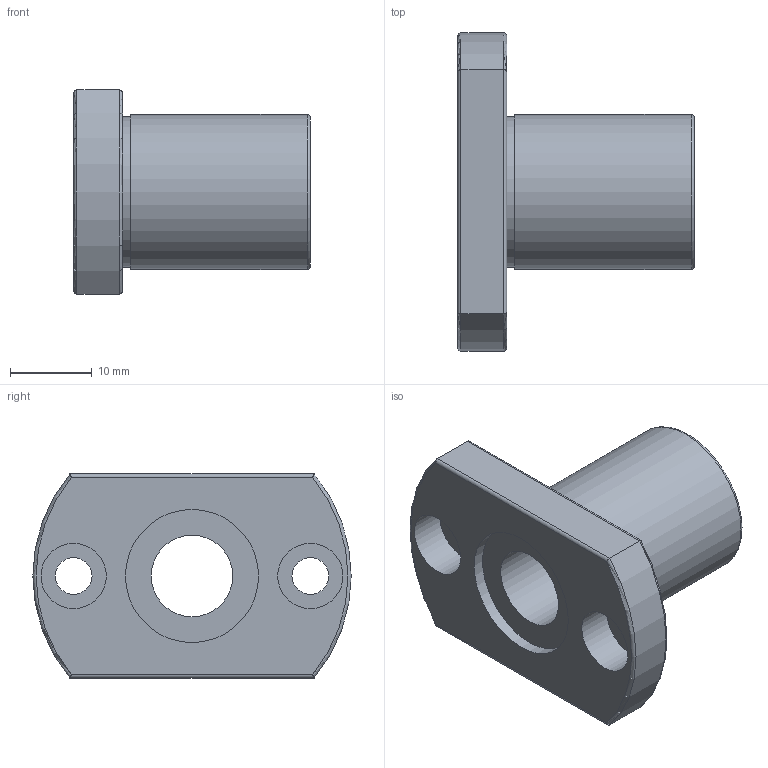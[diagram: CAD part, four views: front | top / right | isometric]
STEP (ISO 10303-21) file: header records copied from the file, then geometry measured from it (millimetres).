
FILE_DESCRIPTION( ( 'Unknown' ), '1' );
FILE_NAME( 'D:/累诀/己绕皋墨飘肺葱胶/11-04-06_档搁累己/01_府聪绢何教/LMH/LMH 10.stp', 'Unknown', ( 'Unknown' ), ( 'Unknown' ), 'PSStep 11.0', 'Unknown', ' ' );
FILE_SCHEMA( ( 'AUTOMOTIVE_DESIGN { 1 0 10303 214 1 1 1 1 }' ) );
Length unit declared in the file: millimetre
Products named in the file (1): 1
Bounding box: 29 x 39 x 25 mm (x, y, z)
Volume: 8764.9 mm3; surface area: 4862.4 mm2
Topology: 1 solids, 1 shells, 30 faces, 61 edges, 39 vertices
Faces by surface type: cylinder 15, plane 10, torus 5
Full cylindrical faces by diameter (mm): 4.5 x2, 8 x2, 10 x1, 16.309 x2, 18.4 x1, 19 x1
Entity records: 998 total; most frequent: CARTESIAN_POINT 153, DIRECTION 128, ORIENTED_EDGE 94, AXIS2_PLACEMENT_3D 58, EDGE_LOOP 52, EDGE_CURVE 47, FACE_OUTER_BOUND 40, VERTEX_POINT 35
